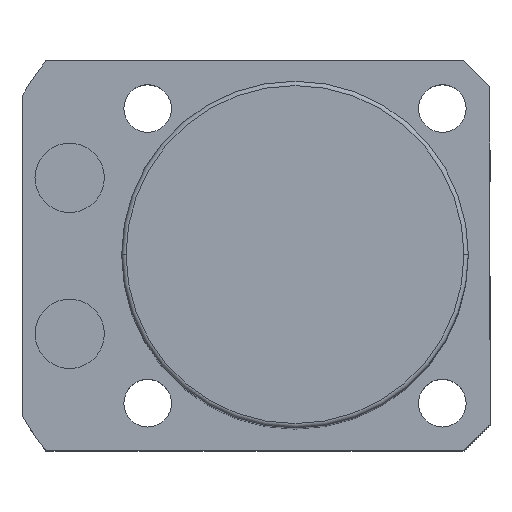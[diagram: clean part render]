
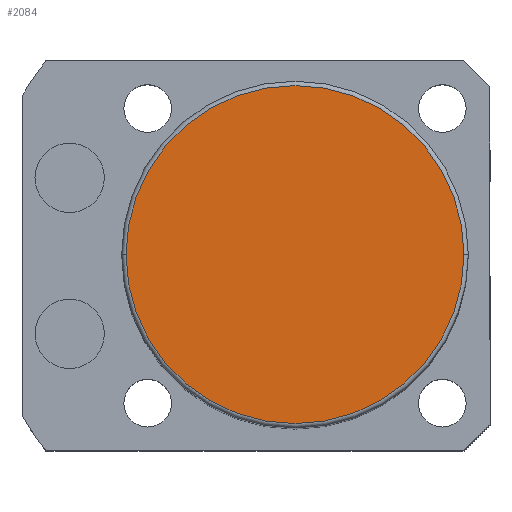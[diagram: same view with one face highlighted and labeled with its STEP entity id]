
A CAD part, top view. The second image highlights one B-rep face of the part: STEP entity #2084.
In plain terms, the highlighted planar face has unit normal (0, 0, 1).
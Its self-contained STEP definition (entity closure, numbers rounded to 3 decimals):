
#3 = ORIENTED_EDGE ( 'NONE', *, *, #2066, .T. ) ;
#69 = FACE_OUTER_BOUND ( 'NONE', #2194, .T. ) ;
#83 = CARTESIAN_POINT ( 'NONE',  ( -19.5, 0., 93.5 ) ) ;
#114 = VERTEX_POINT ( 'NONE', #83 ) ;
#307 = CIRCLE ( 'NONE', #1286, 19.5 ) ;
#397 = AXIS2_PLACEMENT_3D ( 'NONE', #2260, #725, #1288 ) ;
#458 = DIRECTION ( 'NONE',  ( 1., 0., 0. ) ) ;
#655 = DIRECTION ( 'NONE',  ( 1., 0., 0. ) ) ;
#725 = DIRECTION ( 'NONE',  ( 0., 0., 1. ) ) ;
#933 = VERTEX_POINT ( 'NONE', #999 ) ;
#999 = CARTESIAN_POINT ( 'NONE',  ( 19.5, 0., 93.5 ) ) ;
#1032 = DIRECTION ( 'NONE',  ( 0., 0., 1. ) ) ;
#1038 = PLANE ( 'NONE',  #2463 ) ;
#1053 = CARTESIAN_POINT ( 'NONE',  ( 0., 0., 93.5 ) ) ;
#1239 = ORIENTED_EDGE ( 'NONE', *, *, #1249, .T. ) ;
#1249 = EDGE_CURVE ( 'NONE', #114, #933, #2406, .T. ) ;
#1286 = AXIS2_PLACEMENT_3D ( 'NONE', #1053, #1032, #458 ) ;
#1288 = DIRECTION ( 'NONE',  ( 1., 0., 0. ) ) ;
#1822 = DIRECTION ( 'NONE',  ( 0., 0., 1. ) ) ;
#2066 = EDGE_CURVE ( 'NONE', #933, #114, #307, .T. ) ;
#2084 = ADVANCED_FACE ( 'NONE', ( #69 ), #1038, .T. ) ;
#2194 = EDGE_LOOP ( 'NONE', ( #3, #1239 ) ) ;
#2260 = CARTESIAN_POINT ( 'NONE',  ( 0., 0., 93.5 ) ) ;
#2397 = CARTESIAN_POINT ( 'NONE',  ( 0., 0., 93.5 ) ) ;
#2406 = CIRCLE ( 'NONE', #397, 19.5 ) ;
#2463 = AXIS2_PLACEMENT_3D ( 'NONE', #2397, #1822, #655 ) ;
